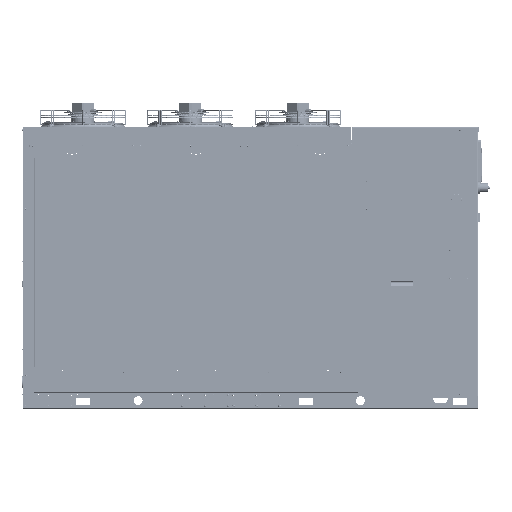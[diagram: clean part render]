
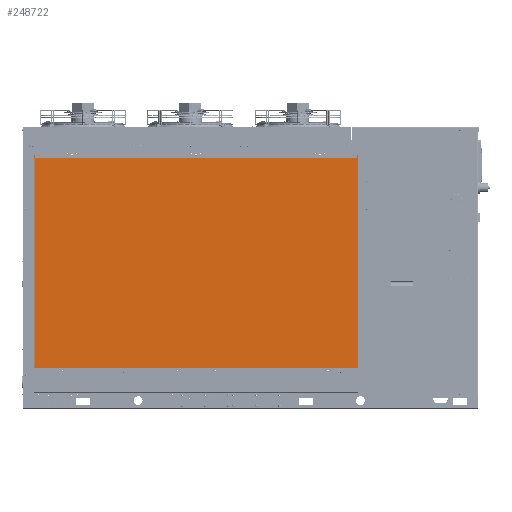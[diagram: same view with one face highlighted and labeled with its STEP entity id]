
A CAD part, left-side view. The second image highlights one B-rep face of the part: STEP entity #248722.
In plain terms, the highlighted planar face has unit normal (-1, 0, 0).
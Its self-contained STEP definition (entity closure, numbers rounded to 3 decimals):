
#27453 = EDGE_CURVE ( 'NONE', #50951, #451055, #331674, .T. ) ;
#28027 = EDGE_LOOP ( 'NONE', ( #254010, #336007, #479053, #65448 ) ) ;
#49583 = CARTESIAN_POINT ( 'NONE',  ( -12.5, 1858.013, 0. ) ) ;
#50951 = VERTEX_POINT ( 'NONE', #403636 ) ;
#65448 = ORIENTED_EDGE ( 'NONE', *, *, #27453, .F. ) ;
#65734 = AXIS2_PLACEMENT_3D ( 'NONE', #130238, #128543, #171937 ) ;
#72459 = DIRECTION ( 'NONE',  ( 0., 0., -1. ) ) ;
#85471 = CARTESIAN_POINT ( 'NONE',  ( -12.5, 1858.013, 601. ) ) ;
#93078 = DIRECTION ( 'NONE',  ( 0., -1., 0. ) ) ;
#119725 = VERTEX_POINT ( 'NONE', #85471 ) ;
#128543 = DIRECTION ( 'NONE',  ( 1., 0., 0. ) ) ;
#130238 = CARTESIAN_POINT ( 'NONE',  ( -12.5, 0., 0. ) ) ;
#137125 = LINE ( 'NONE', #199629, #187035 ) ;
#138603 = LINE ( 'NONE', #49583, #374488 ) ;
#147044 = CARTESIAN_POINT ( 'NONE',  ( -12.5, 9.987, -602. ) ) ;
#171937 = DIRECTION ( 'NONE',  ( 0., 0., -1. ) ) ;
#187035 = VECTOR ( 'NONE', #438816, 1000. ) ;
#199629 = CARTESIAN_POINT ( 'NONE',  ( -12.5, 0., -601. ) ) ;
#233551 = EDGE_CURVE ( 'NONE', #119725, #50951, #479173, .T. ) ;
#248722 = ADVANCED_FACE ( 'NONE', ( #424187 ), #251702, .F. ) ;
#251702 = PLANE ( 'NONE',  #65734 ) ;
#254010 = ORIENTED_EDGE ( 'NONE', *, *, #233551, .F. ) ;
#287438 = CARTESIAN_POINT ( 'NONE',  ( -12.5, 0., 601. ) ) ;
#290123 = EDGE_CURVE ( 'NONE', #328580, #119725, #138603, .T. ) ;
#328580 = VERTEX_POINT ( 'NONE', #418015 ) ;
#331674 = LINE ( 'NONE', #147044, #412295 ) ;
#336007 = ORIENTED_EDGE ( 'NONE', *, *, #290123, .F. ) ;
#370247 = EDGE_CURVE ( 'NONE', #451055, #328580, #137125, .T. ) ;
#373654 = VECTOR ( 'NONE', #93078, 1000. ) ;
#374488 = VECTOR ( 'NONE', #488286, 1000. ) ;
#403636 = CARTESIAN_POINT ( 'NONE',  ( -12.5, 9.987, 601. ) ) ;
#409923 = CARTESIAN_POINT ( 'NONE',  ( -12.5, 9.987, -601. ) ) ;
#412295 = VECTOR ( 'NONE', #72459, 1000. ) ;
#418015 = CARTESIAN_POINT ( 'NONE',  ( -12.5, 1858.013, -601. ) ) ;
#424187 = FACE_OUTER_BOUND ( 'NONE', #28027, .T. ) ;
#438816 = DIRECTION ( 'NONE',  ( 0., 1., 0. ) ) ;
#451055 = VERTEX_POINT ( 'NONE', #409923 ) ;
#479053 = ORIENTED_EDGE ( 'NONE', *, *, #370247, .F. ) ;
#479173 = LINE ( 'NONE', #287438, #373654 ) ;
#488286 = DIRECTION ( 'NONE',  ( 0., 0., 1. ) ) ;
